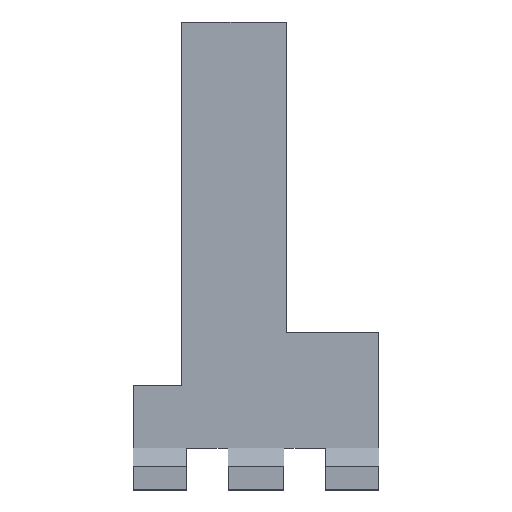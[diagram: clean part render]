
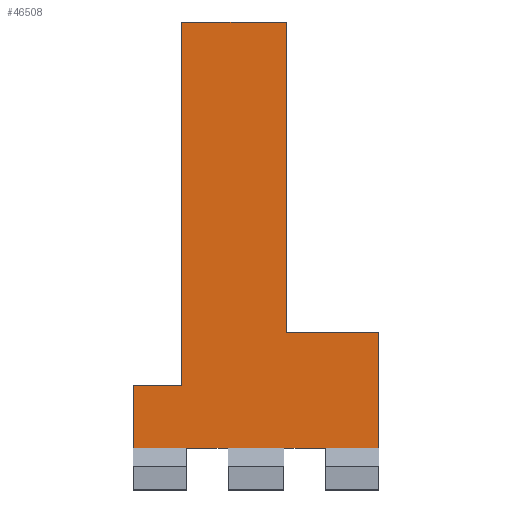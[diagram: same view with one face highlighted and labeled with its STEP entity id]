
A CAD part, top view. The second image highlights one B-rep face of the part: STEP entity #46508.
In plain terms, the highlighted planar face has unit normal (0, 0, 1).
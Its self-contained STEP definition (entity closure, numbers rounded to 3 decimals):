
#2985=FACE_OUTER_BOUND('',#5100,.T.);
#5100=EDGE_LOOP('',(#38474,#38475,#38476,#38477,#38478,#38479,#38480,#38481,
#38482,#38483,#38484,#38485));
#12241=LINE('',#71913,#18668);
#12243=LINE('',#71917,#18670);
#12248=LINE('',#71926,#18675);
#12275=LINE('',#72092,#18702);
#12291=LINE('',#72127,#18718);
#12294=LINE('',#72133,#18721);
#12297=LINE('',#72139,#18724);
#12298=LINE('',#72141,#18725);
#12299=LINE('',#72143,#18726);
#12300=LINE('',#72145,#18727);
#12301=LINE('',#72147,#18728);
#12302=LINE('',#72148,#18729);
#18668=VECTOR('',#59088,10.);
#18670=VECTOR('',#59092,10.);
#18675=VECTOR('',#59099,10.);
#18702=VECTOR('',#59160,10.);
#18718=VECTOR('',#59192,10.);
#18721=VECTOR('',#59199,10.);
#18724=VECTOR('',#59204,10.);
#18725=VECTOR('',#59205,10.);
#18726=VECTOR('',#59206,10.);
#18727=VECTOR('',#59207,10.);
#18728=VECTOR('',#59208,10.);
#18729=VECTOR('',#59209,10.);
#22827=VERTEX_POINT('',#71887);
#22834=VERTEX_POINT('',#71901);
#22839=VERTEX_POINT('',#71916);
#22842=VERTEX_POINT('',#71924);
#22868=VERTEX_POINT('',#72091);
#22879=VERTEX_POINT('',#72126);
#22880=VERTEX_POINT('',#72132);
#22882=VERTEX_POINT('',#72138);
#22883=VERTEX_POINT('',#72140);
#22884=VERTEX_POINT('',#72142);
#22885=VERTEX_POINT('',#72144);
#22886=VERTEX_POINT('',#72146);
#29232=EDGE_CURVE('',#22827,#22834,#12241,.T.);
#29234=EDGE_CURVE('',#22834,#22839,#12243,.T.);
#29239=EDGE_CURVE('',#22842,#22827,#12248,.T.);
#29278=EDGE_CURVE('',#22839,#22868,#12275,.T.);
#29295=EDGE_CURVE('',#22868,#22879,#12291,.T.);
#29298=EDGE_CURVE('',#22879,#22880,#12294,.T.);
#29301=EDGE_CURVE('',#22882,#22880,#12297,.T.);
#29302=EDGE_CURVE('',#22842,#22883,#12298,.T.);
#29303=EDGE_CURVE('',#22883,#22884,#12299,.T.);
#29304=EDGE_CURVE('',#22884,#22885,#12300,.T.);
#29305=EDGE_CURVE('',#22885,#22886,#12301,.T.);
#29306=EDGE_CURVE('',#22886,#22882,#12302,.T.);
#38474=ORIENTED_EDGE('',*,*,#29301,.T.);
#38475=ORIENTED_EDGE('',*,*,#29298,.F.);
#38476=ORIENTED_EDGE('',*,*,#29295,.F.);
#38477=ORIENTED_EDGE('',*,*,#29278,.F.);
#38478=ORIENTED_EDGE('',*,*,#29234,.F.);
#38479=ORIENTED_EDGE('',*,*,#29232,.F.);
#38480=ORIENTED_EDGE('',*,*,#29239,.F.);
#38481=ORIENTED_EDGE('',*,*,#29302,.T.);
#38482=ORIENTED_EDGE('',*,*,#29303,.T.);
#38483=ORIENTED_EDGE('',*,*,#29304,.T.);
#38484=ORIENTED_EDGE('',*,*,#29305,.T.);
#38485=ORIENTED_EDGE('',*,*,#29306,.T.);
#44396=PLANE('',#48655);
#46508=ADVANCED_FACE('',(#2985),#44396,.T.);
#48655=AXIS2_PLACEMENT_3D('',#72137,#59202,#59203);
#59088=DIRECTION('',(-1.,0.,0.));
#59092=DIRECTION('',(-1.,0.,0.));
#59099=DIRECTION('',(-1.,0.,0.));
#59160=DIRECTION('',(-1.,0.,0.));
#59192=DIRECTION('',(-1.,0.,0.));
#59199=DIRECTION('',(0.,1.,0.));
#59202=DIRECTION('center_axis',(0.,0.,
1.));
#59203=DIRECTION('ref_axis',(1.,0.,0.));
#59204=DIRECTION('',(-1.,0.,0.));
#59205=DIRECTION('',(0.,1.,0.));
#59206=DIRECTION('',(-1.,0.,0.));
#59207=DIRECTION('',(0.,1.,0.));
#59208=DIRECTION('',(-1.,0.,0.));
#59209=DIRECTION('',(0.,-1.,0.));
#71887=CARTESIAN_POINT('',(27.68,0.,2.8));
#71901=CARTESIAN_POINT('',(21.68,0.,2.8));
#71913=CARTESIAN_POINT('',(0.,0.,2.8));
#71916=CARTESIAN_POINT('',(13.68,0.,2.8));
#71917=CARTESIAN_POINT('',(0.,0.,2.8));
#71924=CARTESIAN_POINT('',(35.36,0.,2.8));
#71926=CARTESIAN_POINT('',(0.,0.,2.8));
#72091=CARTESIAN_POINT('',(7.68,0.,2.8));
#72092=CARTESIAN_POINT('',(0.,0.,2.8));
#72126=CARTESIAN_POINT('',(0.,0.,2.8));
#72127=CARTESIAN_POINT('',(0.,0.,2.8));
#72132=CARTESIAN_POINT('',(0.,9.08,2.8));
#72133=CARTESIAN_POINT('',(0.,78.8,2.8));
#72137=CARTESIAN_POINT('Origin',(40.117,39.4,2.8));
#72138=CARTESIAN_POINT('',(7.,9.08,2.8));
#72139=CARTESIAN_POINT('',(21.498,9.08,2.8));
#72140=CARTESIAN_POINT('',(35.36,16.68,2.8));
#72141=CARTESIAN_POINT('',(35.36,19.7,2.8));
#72142=CARTESIAN_POINT('',(22.04,16.68,2.8));
#72143=CARTESIAN_POINT('',(37.738,16.68,2.8));
#72144=CARTESIAN_POINT('',(22.04,61.28,2.8));
#72145=CARTESIAN_POINT('',(22.04,28.04,2.8));
#72146=CARTESIAN_POINT('',(7.,61.28,2.8));
#72147=CARTESIAN_POINT('',(27.598,61.28,2.8));
#72148=CARTESIAN_POINT('',(7.,50.34,2.8));
